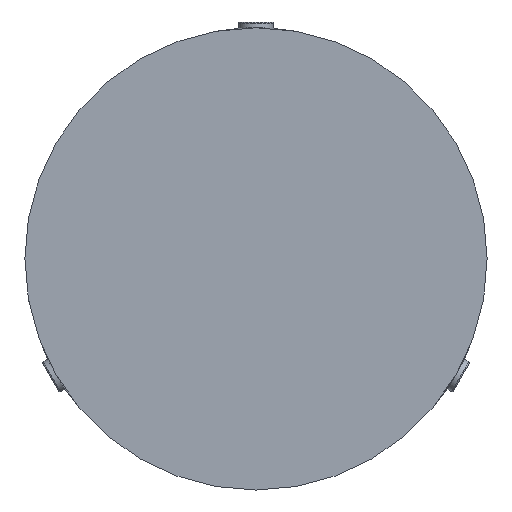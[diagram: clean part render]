
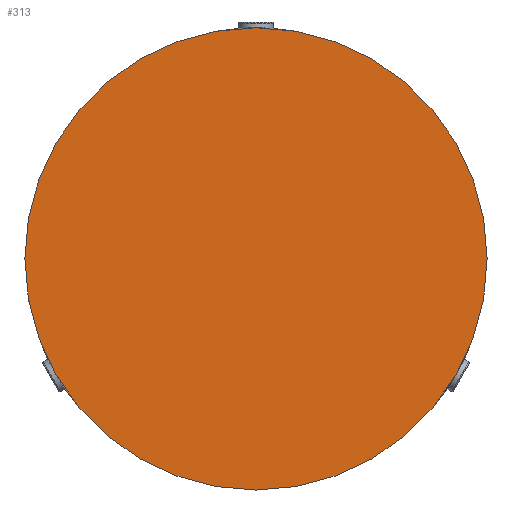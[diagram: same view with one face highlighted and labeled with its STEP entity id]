
A CAD part, left-side view. The second image highlights one B-rep face of the part: STEP entity #313.
In plain terms, the highlighted planar face has unit normal (-1, 0, 0).
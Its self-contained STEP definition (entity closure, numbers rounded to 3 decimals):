
#74=FACE_OUTER_BOUND('',#118,.T.);
#118=EDGE_LOOP('',(#240));
#147=CIRCLE('',#365,40.);
#172=VERTEX_POINT('',#635);
#197=EDGE_CURVE('',#172,#172,#147,.T.);
#240=ORIENTED_EDGE('',*,*,#197,.T.);
#262=PLANE('',#366);
#313=ADVANCED_FACE('',(#74),#262,.F.);
#365=AXIS2_PLACEMENT_3D('',#636,#450,#451);
#366=AXIS2_PLACEMENT_3D('',#637,#452,#453);
#450=DIRECTION('center_axis',(-1.,0.,0.));
#451=DIRECTION('ref_axis',(0.,0.,-1.));
#452=DIRECTION('center_axis',(1.,0.,0.));
#453=DIRECTION('ref_axis',(0.,0.,-1.));
#635=CARTESIAN_POINT('',(-108.,0.,40.));
#636=CARTESIAN_POINT('Origin',(-108.,0.,0.));
#637=CARTESIAN_POINT('Origin',(-108.,0.,0.));
